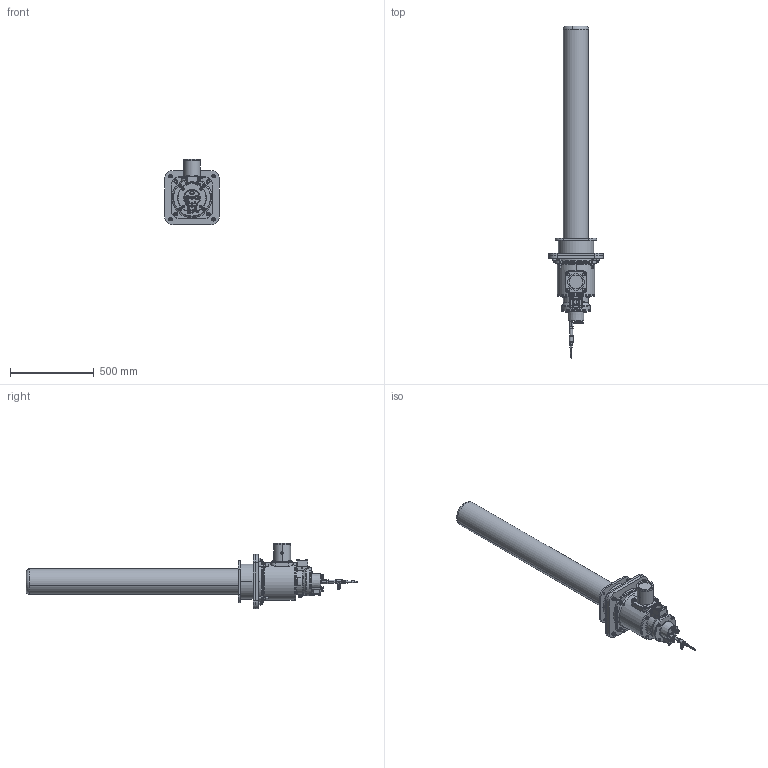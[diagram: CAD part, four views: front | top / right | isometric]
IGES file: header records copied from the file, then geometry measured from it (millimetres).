
Global section: file name: No Iges File Name specified; native system: AutoDesk Inventor R12.0; preprocessor: AutoDesk Inventor Iges Exporter R12.0; date: 20110916.125750; units: millimetre
Bounding box: 326 x 1987.68 x 394 mm (x, y, z)
Volume: 42485883.9 mm3; surface area: 1650848.1 mm2
Topology: 34 solids, 34 shells, 2551 faces, 6138 edges, 3773 vertices
Faces by surface type: plane 1022, cylinder 493, cone 432, bspline 349, revolution 216, torus 39
Full cylindrical faces by diameter (mm): 14.8 x12, 21.1 x8
